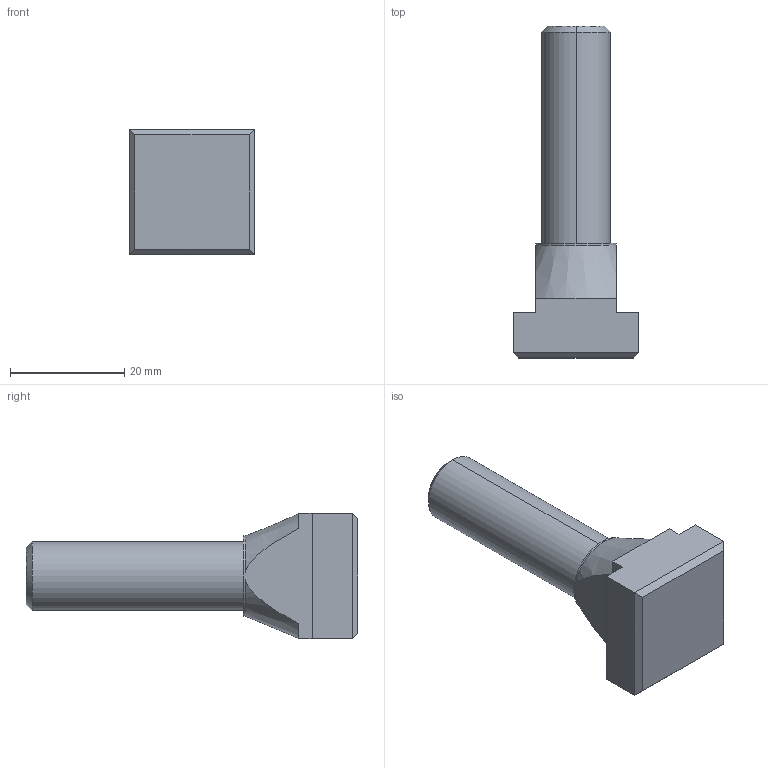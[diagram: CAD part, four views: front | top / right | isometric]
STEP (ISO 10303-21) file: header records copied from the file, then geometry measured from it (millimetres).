
FILE_DESCRIPTION (( 'STEP AP203' ), '1' );
FILE_NAME ('Wiberger-din787_14-m12x50.step', '2016-07-01T13:16:41', ( 'Magnus' ), ( 'Microsoft' ), 'SwSTEP 2.0', 'SolidWorks 2016', '' );
FILE_SCHEMA (( 'CONFIG_CONTROL_DESIGN' ));
Length unit declared in the file: millimetre
Products named in the file (1): Wiberger-din787_14-m12x50
Bounding box: 22 x 58 x 22 mm (x, y, z)
Volume: 10948 mm3; surface area: 3615.2 mm2
Topology: 1 solids, 1 shells, 27 faces, 66 edges, 42 vertices
Faces by surface type: plane 17, cone 5, cylinder 5
Entity records: 931 total; most frequent: CARTESIAN_POINT 218, ORIENTED_EDGE 132, DIRECTION 130, EDGE_CURVE 66, AXIS2_PLACEMENT_3D 44, VERTEX_POINT 42, LINE 42, VECTOR 42
